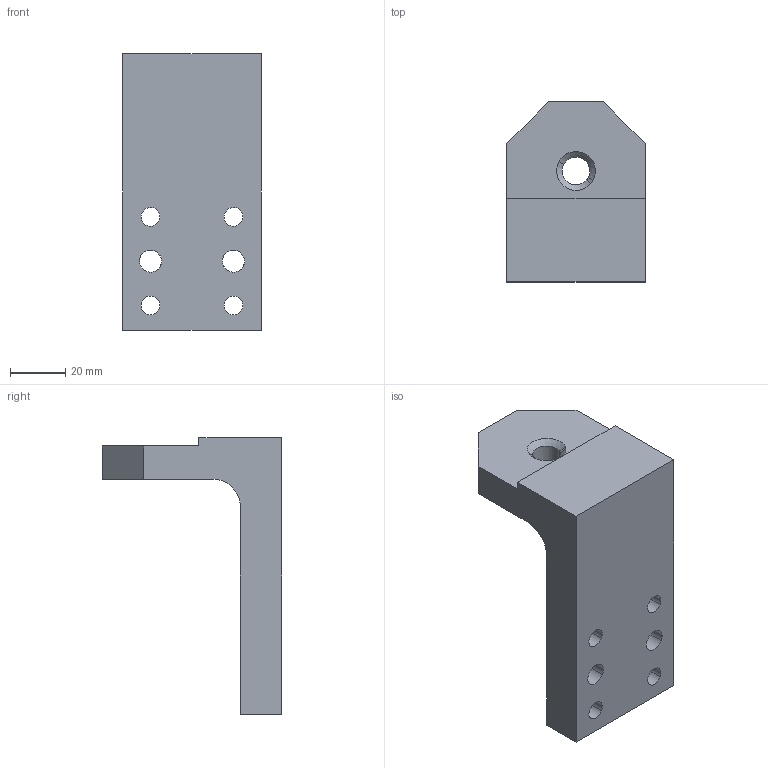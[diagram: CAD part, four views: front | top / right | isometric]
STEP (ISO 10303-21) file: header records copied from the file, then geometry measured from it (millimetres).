
FILE_DESCRIPTION(('CATIA V5 STEP Exchange'),'2;1');
FILE_NAME('\\Tcn-server2\产品部\2-PDD Database\6-Gripping\500-Other product\2-Euro gripper system\Euro Gripper to customer\Euro gripper-3D model for design-V2\EGT287-2.stp','2013-08-02T09:48:57+00:00',('none'),('none'),'CATIA Version 5 Release 21 GA (IN-10)','CATIA V5 STEP AP203','none');
FILE_SCHEMA(('CONFIG_CONTROL_DESIGN'));
Length unit declared in the file: millimetre
Products named in the file (1): EGT287-2
Bounding box: 50 x 65 x 100 mm (x, y, z)
Volume: 100922.4 mm3; surface area: 21689.9 mm2
Topology: 1 solids, 1 shells, 30 faces, 82 edges, 54 vertices
Faces by surface type: cylinder 15, plane 12, cone 3
Entity records: 1132 total; most frequent: CARTESIAN_POINT 315, ORIENTED_EDGE 164, DIRECTION 134, EDGE_CURVE 82, AXIS2_PLACEMENT_3D 57, VERTEX_POINT 54, VECTOR 48, LINE 48
